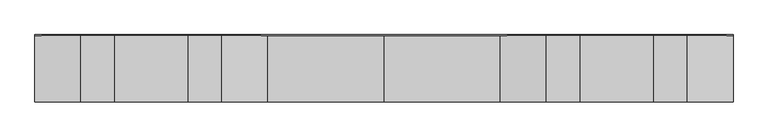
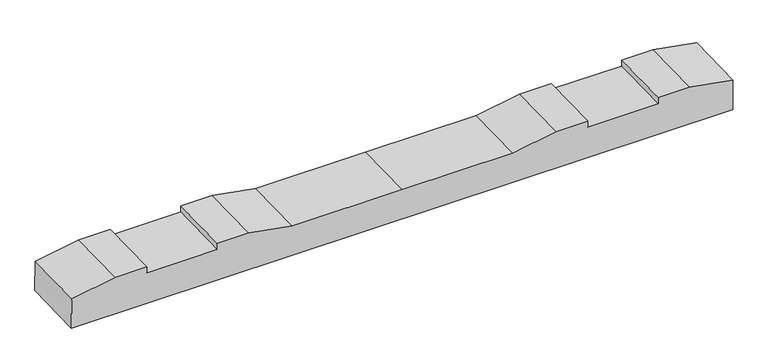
"""IFC4 building model written with IfcOpenShell, lengths in millimetres: proxy geometry, 轨枕-立面角度 : 轨枕-立面角度."""

from ifc_helpers import new_model, si_unit, frame, origin, place, context, project, spatial, polyline, outline, extrude, source, transform, mapped, element, save


def generic_models_11ccf94b(model_context):
    return source(origin(), model_context, "Body", "SweptSolid", [
        extrude(outline(polyline([(0.0, 0.0), (2099.7669328, 0.0), (2099.7669328, -100.020689), (1961.8834664, -124.5), (1861.8834664, -124.5), (1861.8834664, -104.5), (1637.8834664, -104.5), (1637.8834664, -124.5), (1537.8834664, -124.5), (1399.8834664, -100.0), (1049.8834664, -100.0), (699.8834664, -100.0), (561.8834664, -124.5), (461.8834664, -124.5), (461.8834664, -104.5), (237.8834664, -104.5), (237.8834664, -124.5), (137.8834664, -124.5), (0.0, -100.020689), (0.0, 0.0)])), frame((-1049.8834664, -97.4107253, -106.9177282), z_axis=(0.0, 0.9997000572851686, 0.02449072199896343), x_axis=(1.0, 0.0, 0.0)), (0.0, 0.0, 1.0), 200.0),
    ])


if __name__ == "__main__":
    model = new_model("IFC4")
    model_context = context("Model", 3, world=origin())
    ifc_project = project(units=[si_unit("LENGTHUNIT", "METRE", prefix="MILLI")], contexts=[model_context])
    site = spatial("IfcSite", under=ifc_project)
    building = spatial("IfcBuilding", under=site)
    placement = place(None, origin())
    generic_models_shape = generic_models_11ccf94b(model_context)
    element("IfcBuildingElementProxy", 1, Name="轨枕-立面角度 : 轨枕-立面角度", ObjectType="轨枕-立面角度 : 轨枕-立面角度", at=placement, inside=building, context=model_context, shape_type="MappedRepresentation", body=[
        mapped(generic_models_shape, transform((0.0, 0.0, 0.0), x_axis=(1.0, 0.0, 0.0), y_axis=(0.0, 1.0, 0.0), z_axis=(0.0, 0.0, 1.0))),
    ])
    save(model, "model.ifc")
